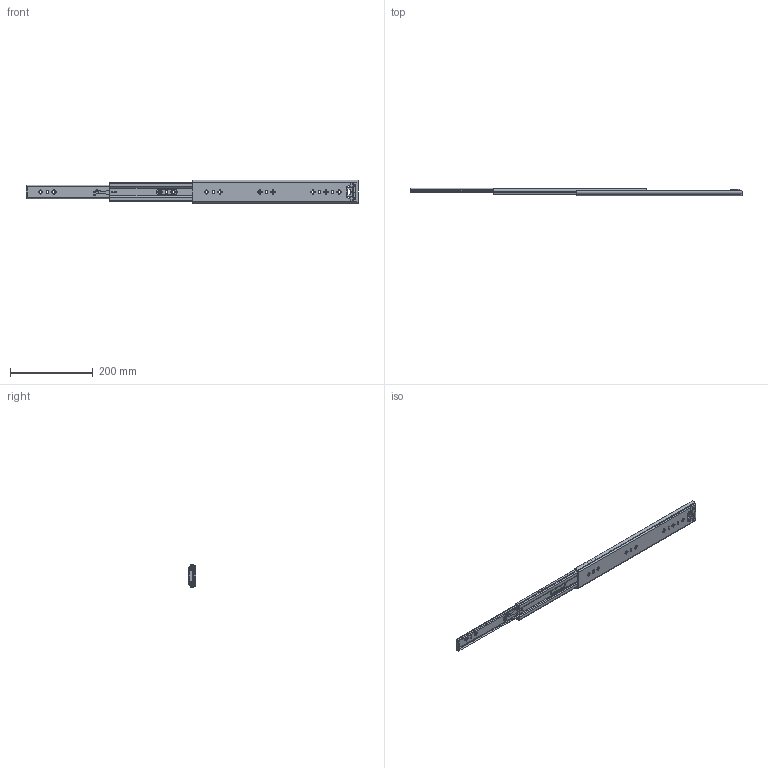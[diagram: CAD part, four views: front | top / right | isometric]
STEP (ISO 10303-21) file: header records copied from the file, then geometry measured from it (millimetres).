
FILE_DESCRIPTION((''),'2;1');
FILE_NAME('1057-02-16_ASM','2023-12-19T',('jishu015'),(''),'PRO/ENGINEER BY PARAMETRIC TECHNOLOGY CORPORATION, 2010280','PRO/ENGINEER BY PARAMETRIC TECHNOLOGY CORPORATION, 2010280','');
FILE_SCHEMA(('CONFIG_CONTROL_DESIGN'));
Length unit declared in the file: millimetre
Products named in the file (14): KP-57-01WEIKE-18____; 1057WEIJIAO____; 1057DAZHUJIA-14GE____; 1057-5-6GANZHU____; 1057DAZHUJIA-14GE_____ASM; KP-57-01ZHONGGUI-18____; 57-ZHONGGUIDINWEIJIAN____; KP-57-01ZHONGGUI-18_____ASM; 1057XIAOZHUJIA____; 1057XIAOZHUJIA-14GE_____ASM; KP-57-01NEIGUI-18____; 45TIEBACHA____; KP-57-01NEIGUI-18_____ASM; 1057-02-16_ASM
Assembly tree (64 placements, depth 3):
  1057-02-16_ASM
    KP-57-01WEIKE-18____
    1057WEIJIAO____
    1057DAZHUJIA-14GE_____ASM
      1057DAZHUJIA-14GE____
      1057-5-6GANZHU____  x24
    KP-57-01ZHONGGUI-18_____ASM
      KP-57-01ZHONGGUI-18____
      57-ZHONGGUIDINWEIJIAN____
    1057XIAOZHUJIA-14GE_____ASM
      1057XIAOZHUJIA____
      1057-5-6GANZHU____  x28
    KP-57-01NEIGUI-18_____ASM
      KP-57-01NEIGUI-18____
      45TIEBACHA____
Bounding box: 800 x 19 x 57.67 mm (x, y, z)
Volume: 171833.9 mm3; surface area: 197582.5 mm2
Topology: 60 solids, 62 shells, 1772 faces, 4949 edges, 3084 vertices
Faces by surface type: plane 848, cylinder 710, sphere 112, cone 62, bspline 34, torus 6
Entity records: 56352 total; most frequent: CARTESIAN_POINT 11701, DIRECTION 9447, ORIENTED_EDGE 9258, EDGE_CURVE 4631, AXIS2_PLACEMENT_3D 3238, VERTEX_POINT 2982, VECTOR 2971, LINE 2971
